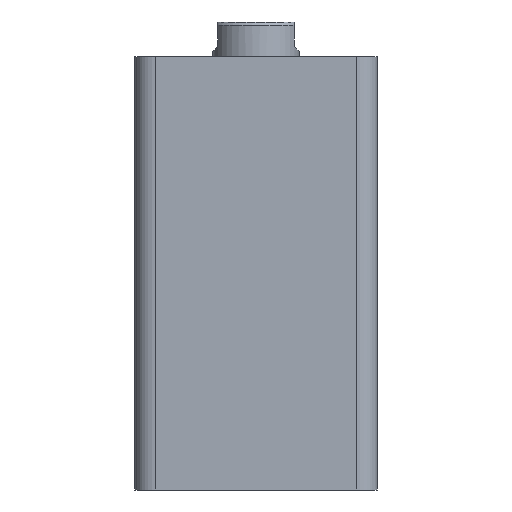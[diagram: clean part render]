
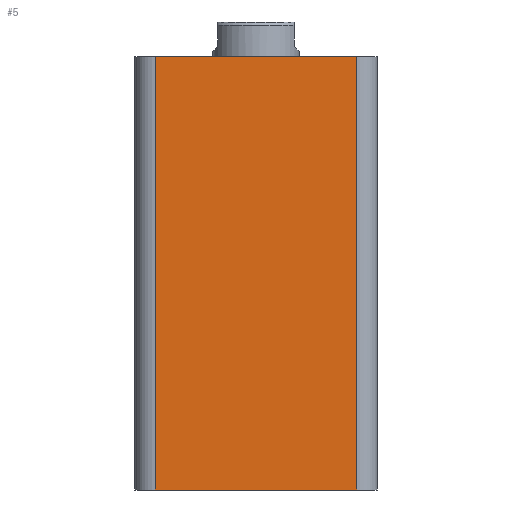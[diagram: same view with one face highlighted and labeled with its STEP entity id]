
A CAD part, front view. The second image highlights one B-rep face of the part: STEP entity #5.
In plain terms, the highlighted planar face has unit normal (0, -1, 0).
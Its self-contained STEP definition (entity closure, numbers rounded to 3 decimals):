
#5 = ADVANCED_FACE ( 'NONE', ( #359 ), #1331, .F. ) ;
#246 = VECTOR ( 'NONE', #2540, 1000. ) ;
#249 = VECTOR ( 'NONE', #2542, 1000. ) ;
#250 = LINE ( 'NONE', #2541, #246 ) ;
#251 = VECTOR ( 'NONE', #2544, 1000. ) ;
#255 = VECTOR ( 'NONE', #2549, 1000. ) ;
#256 = LINE ( 'NONE', #2546, #251 ) ;
#259 = LINE ( 'NONE', #2550, #255 ) ;
#265 = LINE ( 'NONE', #2593, #249 ) ;
#359 = FACE_OUTER_BOUND ( 'NONE', #884, .T. ) ;
#366 = VERTEX_POINT ( 'NONE', #2581 ) ;
#367 = VERTEX_POINT ( 'NONE', #2588 ) ;
#403 = VERTEX_POINT ( 'NONE', #2360 ) ;
#507 = ORIENTED_EDGE ( 'NONE', *, *, #673, .F. ) ;
#508 = ORIENTED_EDGE ( 'NONE', *, *, #674, .T. ) ;
#509 = ORIENTED_EDGE ( 'NONE', *, *, #675, .T. ) ;
#607 = AXIS2_PLACEMENT_3D ( 'NONE', #1336, #1322, #1325 ) ;
#673 = EDGE_CURVE ( 'NONE', #366, #403, #259, .T. ) ;
#674 = EDGE_CURVE ( 'NONE', #366, #1149, #256, .T. ) ;
#675 = EDGE_CURVE ( 'NONE', #1149, #367, #265, .T. ) ;
#676 = EDGE_CURVE ( 'NONE', #367, #403, #250, .T. ) ;
#884 = EDGE_LOOP ( 'NONE', ( #507, #508, #509, #936 ) ) ;
#936 = ORIENTED_EDGE ( 'NONE', *, *, #676, .T. ) ;
#1149 = VERTEX_POINT ( 'NONE', #2277 ) ;
#1322 = DIRECTION ( 'NONE',  ( 0., 1., 0. ) ) ;
#1325 = DIRECTION ( 'NONE',  ( 0., 0., 1. ) ) ;
#1331 = PLANE ( 'NONE',  #607 ) ;
#1336 = CARTESIAN_POINT ( 'NONE',  ( -35., -35., 125. ) ) ;
#2277 = CARTESIAN_POINT ( 'NONE',  ( -29., -35., 0. ) ) ;
#2360 = CARTESIAN_POINT ( 'NONE',  ( 29., -35., 125. ) ) ;
#2540 = DIRECTION ( 'NONE',  ( 0., 0., 1. ) ) ;
#2541 = CARTESIAN_POINT ( 'NONE',  ( 29., -35., 125. ) ) ;
#2542 = DIRECTION ( 'NONE',  ( 1., 0., 0. ) ) ;
#2544 = DIRECTION ( 'NONE',  ( 0., 0., -1. ) ) ;
#2546 = CARTESIAN_POINT ( 'NONE',  ( -29., -35., 125. ) ) ;
#2549 = DIRECTION ( 'NONE',  ( 1., 0., 0. ) ) ;
#2550 = CARTESIAN_POINT ( 'NONE',  ( -35., -35., 125. ) ) ;
#2581 = CARTESIAN_POINT ( 'NONE',  ( -29., -35., 125. ) ) ;
#2588 = CARTESIAN_POINT ( 'NONE',  ( 29., -35., 0. ) ) ;
#2593 = CARTESIAN_POINT ( 'NONE',  ( -35., -35., 0. ) ) ;
